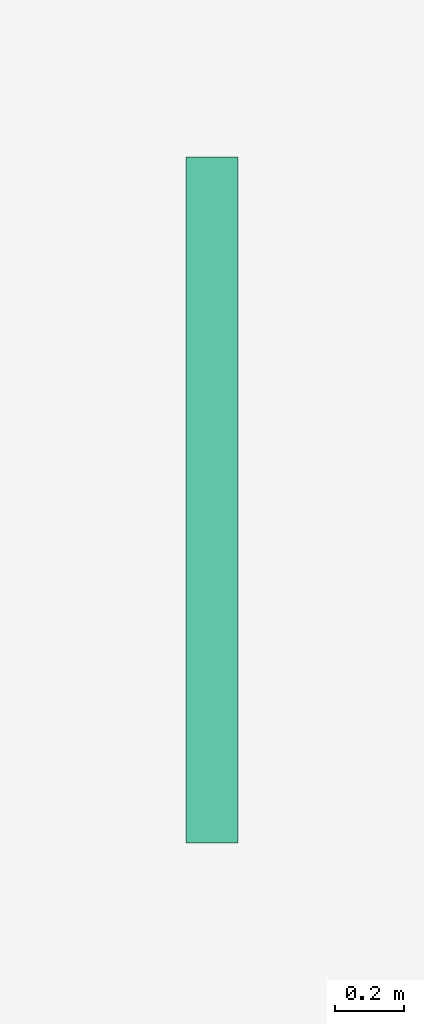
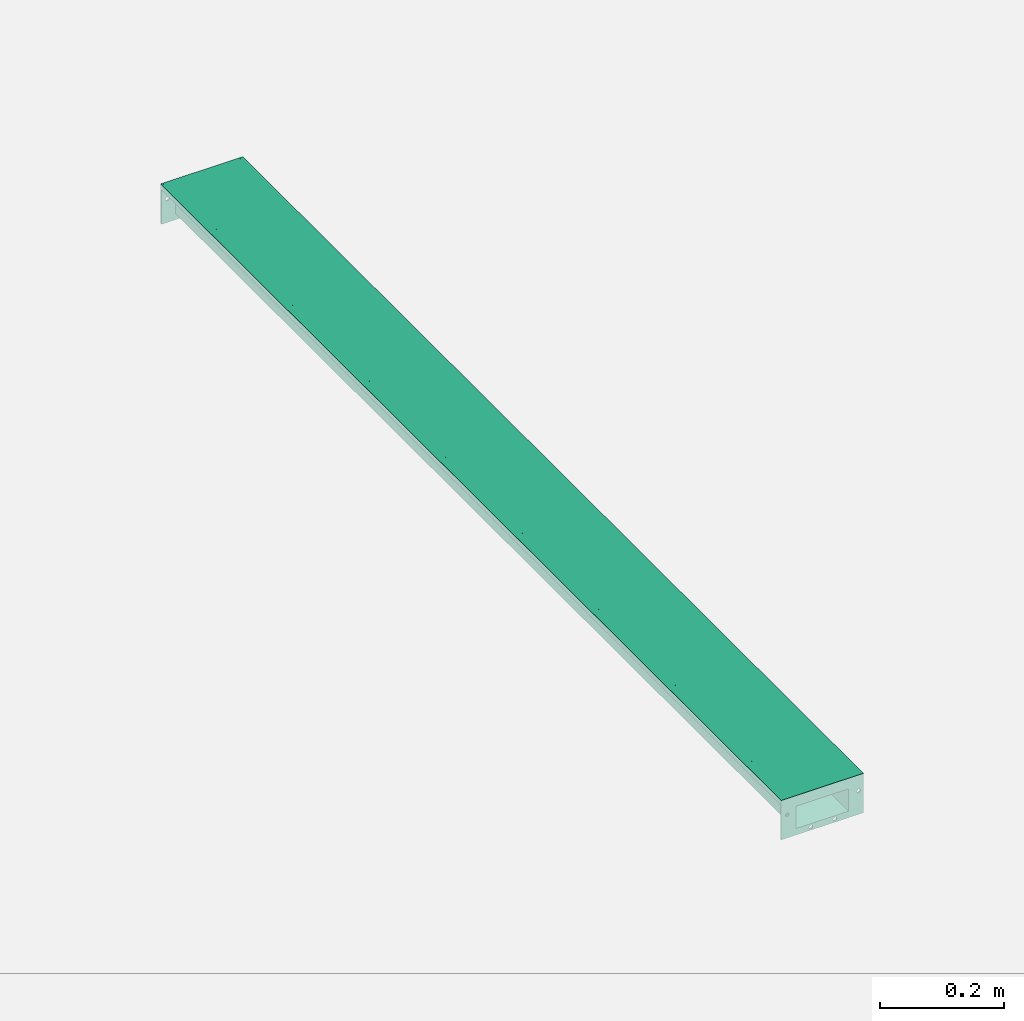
# One storey, part 2 of 2: 1 flow terminal.
"""IFC2X3 building model written with IfcOpenShell, lengths in millimetres."""

from ifc_helpers import new_model, entity, si_unit, converted_unit, direction, frame, frame_2d, origin, origin_2d_with_axis, place, context, subcontext, project, spatial, polyline, circle_curve, parameter, trimmed, segment, composite_curve, rectangle, outline, extrude, source, transform, mapped, material, material_list, element, save


model = new_model("IFC2X3")

# Units and contexts
model_context = context("Model", 3, precision=1e-06, world=origin(), true_north=direction((2.0, 6.12303176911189e-17, 1.0)))
context_of_model = context(None, 3, precision=1e-06, world=origin(), true_north=direction((2.0, 6.12303176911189e-17, 1.0)))
body_context = subcontext(model_context, "Body", "Model", "MODEL_VIEW")
ifc_project = project(units=[si_unit("LENGTHUNIT", "METRE", prefix="MILLI"), si_unit("AREAUNIT", "SQUARE_METRE", prefix="MILLI"), si_unit("VOLUMEUNIT", "CUBIC_METRE", prefix="MILLI"), converted_unit("PLANEANGLEUNIT", "DEGREE", entity("IfcRatioMeasure", 0.0174532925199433), si_unit("PLANEANGLEUNIT", "RADIAN"), dimensions=[0, 0, 0, 0, 0, 0, 0]), si_unit("TIMEUNIT", "SECOND")], contexts=[model_context, context_of_model])

# Site, building, storey
site_placement = place(None, origin())
site = spatial("IfcSite", under=ifc_project, at=site_placement, Name="Default", CompositionType="ELEMENT")
building_placement = place(site_placement, origin())
building = spatial("IfcBuilding", under=site, at=building_placement, CompositionType="ELEMENT")
storey_placement = place(building_placement, origin())
storey = spatial("IfcBuildingStorey", under=building, at=storey_placement, Name="Level 1", CompositionType="ELEMENT", Elevation=0.0)

# Flow terminal
ifc_material_1 = material(Name="Stainless Steel AISI 304")
ifc_material_2 = material(Name="Polystyrene, High Impact (F)")
ifc_material_list = material_list([ifc_material_1, ifc_material_2])
shared_shape = source(origin(), body_context, "Body", "SweptSolid", [
    extrude(rectangle(XDim=2000.0, YDim=124.999917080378, at=origin_2d_with_axis()), frame((4.14598109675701e-05, 1000.0, -21.0), z_axis=(0.0, 0.0, 1.0), x_axis=(0.0, 1.0, 0.0)), (0.0, 0.0, 1.0), 20.9999999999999),
    extrude(outline(polyline([(-76.5000276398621, -30.8000000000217), (-62.4999447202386, -30.8000000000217), (-62.4999447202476, -9.80000000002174), (-48.4999447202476, -9.80000000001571), (-48.4999447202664, 34.1999999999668), (48.4999723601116, 34.2000000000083), (48.4999723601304, -9.79999999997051), (62.4999723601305, -9.79999999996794), (62.4999723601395, -30.7999999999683), (76.4999723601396, -30.7999999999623), (76.4999723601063, 47.0), (-76.5000276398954, 47.0), (-76.5000276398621, -30.8000000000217)]), holes=[composite_curve([segment(trimmed(circle_curve(frame_2d((67.7349848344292, 1.09857254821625), x_axis=(1.0, 0.0)), 3.5), [parameter(0.0)], [parameter(180.0)], True, "PARAMETER"), False, "CONTINUOUS"), segment(trimmed(circle_curve(frame_2d((67.7349848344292, 1.09857254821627), x_axis=(1.0, 0.0)), 3.5), [parameter(180.0)], [parameter(360.0)], True, "PARAMETER"), False, "CONTINUOUS")], self_intersect=False), composite_curve([segment(trimmed(circle_curve(frame_2d((23.7349848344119, 40.9218749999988), x_axis=(1.0, 0.0)), 3.5), [parameter(0.0)], [parameter(180.0)], True, "PARAMETER"), False, "CONTINUOUS"), segment(trimmed(circle_curve(frame_2d((23.7349848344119, 40.9218749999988), x_axis=(1.0, 0.0)), 3.5), [parameter(180.0)], [parameter(360.0)], True, "PARAMETER"), False, "CONTINUOUS")], self_intersect=False), composite_curve([segment(trimmed(circle_curve(frame_2d((-21.2650151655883, 40.9218749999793), x_axis=(1.0, 0.0)), 3.5), [parameter(179.999999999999)], [parameter(360.0)], True, "PARAMETER"), False, "CONTINUOUS"), segment(trimmed(circle_curve(frame_2d((-21.2650151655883, 40.9218749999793), x_axis=(1.0, 0.0)), 3.5), [parameter(360.0)], [parameter(180.0)], True, "PARAMETER"), False, "CONTINUOUS")], self_intersect=False), composite_curve([segment(trimmed(circle_curve(frame_2d((-65.2650151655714, 1.09857254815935), x_axis=(1.0, 0.0)), 3.5), [parameter(179.999999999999)], [parameter(360.0)], True, "PARAMETER"), False, "CONTINUOUS"), segment(trimmed(circle_curve(frame_2d((-65.2650151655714, 1.09857254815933), x_axis=(1.0, 0.0)), 3.5), [parameter(0.0)], [parameter(180.0)], True, "PARAMETER"), False, "CONTINUOUS")], self_intersect=False)]), frame((2.7639875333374e-05, 1997.0, -30.8000000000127), z_axis=(0.0, 1.0, 0.0), x_axis=(1.0, 0.0, 0.0)), (0.0, 0.0, 1.0), 2.99999999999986),
    extrude(outline(polyline([(-76.4999585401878, -30.80000137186), (-62.4999585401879, -30.80000137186), (-62.4999585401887, -9.80000137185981), (-48.4999585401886, -9.80000137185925), (-48.4999585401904, 34.1999986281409), (48.4999585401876, 34.1999986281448), (48.4999585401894, -9.80000137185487), (62.4999585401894, -9.80000137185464), (62.4999585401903, -30.800001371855), (76.4999585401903, -30.8000013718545), (76.4999585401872, 47.0000068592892), (-76.4999585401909, 47.0000068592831), (-76.4999585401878, -30.80000137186)]), holes=[composite_curve([segment(trimmed(circle_curve(frame_2d((67.7349710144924, 1.0985711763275), x_axis=(1.0, 0.0)), 3.5), [parameter(0.0)], [parameter(180.0)], True, "PARAMETER"), False, "CONTINUOUS"), segment(trimmed(circle_curve(frame_2d((67.7349710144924, 1.09857117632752), x_axis=(1.0, 0.0)), 3.5), [parameter(180.0)], [parameter(0.0)], True, "PARAMETER"), False, "CONTINUOUS")], self_intersect=False), composite_curve([segment(trimmed(circle_curve(frame_2d((23.7349710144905, 40.9218818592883), x_axis=(1.0, 0.0)), 3.5), [parameter(0.0)], [parameter(180.0)], True, "PARAMETER"), False, "CONTINUOUS"), segment(trimmed(circle_curve(frame_2d((23.7349710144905, 40.9218818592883), x_axis=(1.0, 0.0)), 3.5), [parameter(180.0)], [parameter(0.0)], True, "PARAMETER"), False, "CONTINUOUS")], self_intersect=False), composite_curve([segment(trimmed(circle_curve(frame_2d((-21.2650289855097, 40.9218818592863), x_axis=(1.0, 0.0)), 3.5), [parameter(180.0)], [parameter(360.0)], True, "PARAMETER"), False, "CONTINUOUS"), segment(trimmed(circle_curve(frame_2d((-21.2650289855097, 40.9218818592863), x_axis=(1.0, 0.0)), 3.5), [parameter(360.0)], [parameter(180.0)], True, "PARAMETER"), False, "CONTINUOUS")], self_intersect=False), composite_curve([segment(trimmed(circle_curve(frame_2d((-65.2650289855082, 1.09857117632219), x_axis=(1.0, 0.0)), 3.5), [parameter(180.0)], [parameter(0.0)], True, "PARAMETER"), False, "CONTINUOUS"), segment(trimmed(circle_curve(frame_2d((-65.2650289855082, 1.09857117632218), x_axis=(1.0, 0.0)), 3.5), [parameter(0.0)], [parameter(180.0)], True, "PARAMETER"), False, "CONTINUOUS")], self_intersect=False)]), frame((4.14598109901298e-05, 0.0, -30.8000013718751), z_axis=(0.0, 1.0, 0.0), x_axis=(1.0, 0.0, 0.0)), (0.0, 0.0, 1.0), 3.0),
    extrude(outline(polyline([(-20.1243423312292, -62.4999585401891), (-20.1243423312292, -76.499958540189), (-10.1243423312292, -76.499958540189), (-10.1243423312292, -74.999958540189), (-18.6243423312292, -74.999958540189), (-18.6243423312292, -63.9999585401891), (2.3756576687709, -63.9999585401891), (2.37565766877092, -49.999958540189), (46.3717116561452, -49.999958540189), (46.3717116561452, 49.999958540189), (2.37565766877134, 49.999958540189), (2.37565766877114, 63.999958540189), (-18.624342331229, 63.9999585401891), (-18.6243423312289, 74.9999585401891), (-10.1243423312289, 74.9999585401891), (-10.1243423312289, 76.4999585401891), (-20.1243423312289, 76.4999585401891), (-20.124342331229, 62.4999585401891), (0.875657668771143, 62.499958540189), (0.875657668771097, 48.499958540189), (44.8717116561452, 48.499958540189), (44.8717116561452, -48.499958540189), (0.875657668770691, -48.499958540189), (0.875657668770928, -62.4999585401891), (-20.1243423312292, -62.4999585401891)])), frame((4.14598110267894e-05, 3.0, -20.1282883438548), z_axis=(0.0, -1.0, 0.0), x_axis=(0.0, 0.0, -1.0)), (0.0, 0.0, -1.0), 1994.0),
    extrude(rectangle(XDim=1997.0, YDim=11.0, at=frame_2d((-1.13686837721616e-13, 0.0), x_axis=(1.0, 0.0))), frame((69.5000000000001, 1001.5, -10.0), z_axis=(0.0, 0.0, 1.0), x_axis=(0.0, 1.0, 0.0)), (0.0, 0.0, 1.0), 8.50000000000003),
    extrude(rectangle(XDim=1997.0, YDim=10.9999999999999, at=frame_2d((-1.13686837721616e-13, 0.0), x_axis=(1.0, 0.0))), frame((-69.499917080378, 1001.5, -10.0), z_axis=(0.0, 0.0, 1.0), x_axis=(0.0, 1.0, 0.0)), (0.0, 0.0, 1.0), 8.50000000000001),
])
flow_terminal_placement = place(storey_placement, frame((-82.2883701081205, -967.950501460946, 0.0)))
element("IfcFlowTerminal", 1, at=flow_terminal_placement, inside=storey, material=ifc_material_list, Name="ACO BD Modular 125 Level Invert Straight Channels:105136 - Straight Channel - 2000mm LG - Invert Depth 65mm:105136 - Straight Channel - 2000mm LG - Invert Depth 65mm", ObjectType="105136 - Straight Channel - 2000mm LG - Invert Depth 65mm", context=body_context, shape_type="MappedRepresentation", body=[
    mapped(shared_shape, transform((0.0, 0.0, 0.0), scale=1.0)),
])

save(model, "model.ifc")
